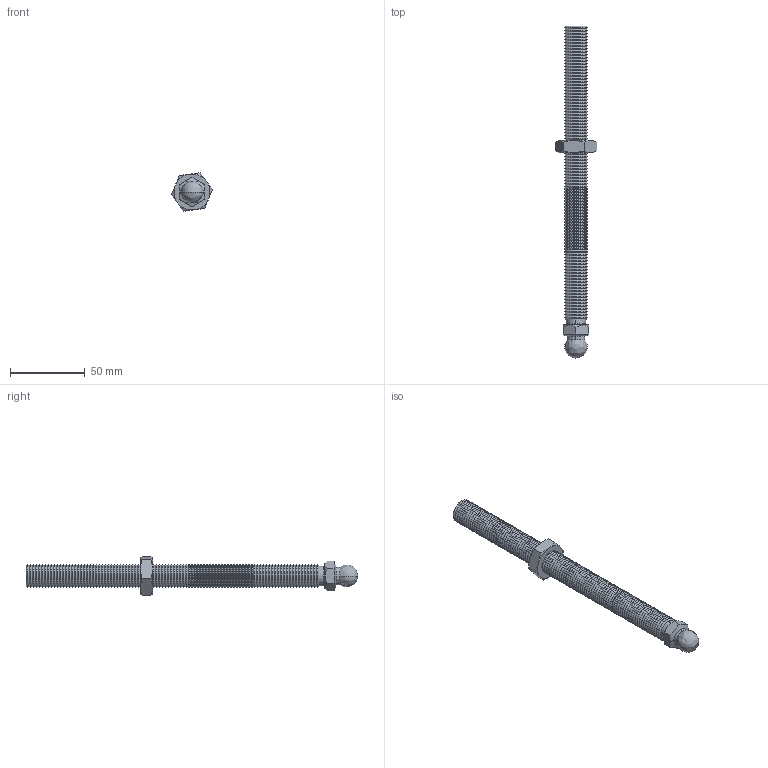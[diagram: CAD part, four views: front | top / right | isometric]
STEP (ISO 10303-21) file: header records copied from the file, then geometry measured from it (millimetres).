
FILE_DESCRIPTION (( 'STEP AP203' ), '1' );
FILE_NAME ('501470_Gewindestange mit Kugel M16x200.step', '2020-09-28T12:46:58', ( '' ), ( '' ), 'SwSTEP 2.0', 'SolidWorks 2017', '' );
FILE_SCHEMA (( 'CONFIG_CONTROL_DESIGN' ));
Length unit declared in the file: millimetre
Products named in the file (1): 501470_Gewindestange mit Kugel M16x200
Bounding box: 27.49 x 221.34 x 25.55 mm (x, y, z)
Volume: 48319.4 mm3; surface area: 21923 mm2
Topology: 7 solids, 7 shells, 770 faces, 2001 edges, 1242 vertices
Faces by surface type: cone 496, cylinder 244, plane 26, bspline 4
Entity records: 24347 total; most frequent: DIRECTION 4704, CARTESIAN_POINT 4516, ORIENTED_EDGE 3994, EDGE_CURVE 1997, AXIS2_PLACEMENT_3D 1982, VERTEX_POINT 1242, CIRCLE 1215, EDGE_LOOP 773
